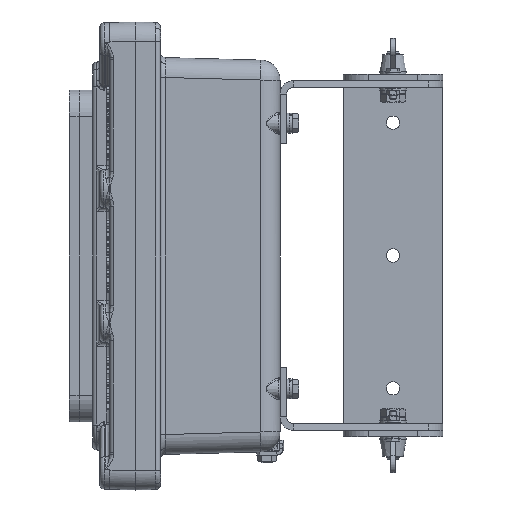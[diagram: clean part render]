
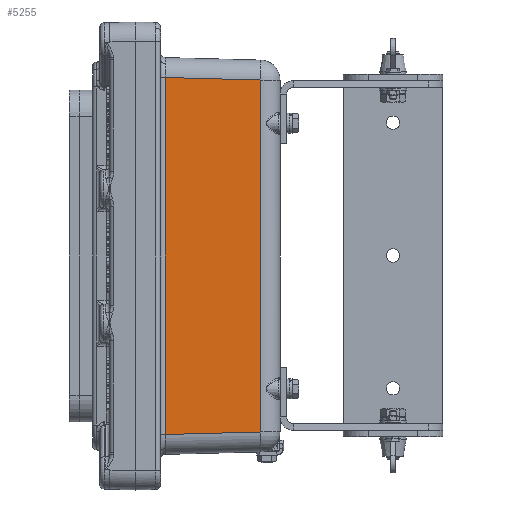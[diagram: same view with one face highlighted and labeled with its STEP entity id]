
A CAD part, left-side view. The second image highlights one B-rep face of the part: STEP entity #5255.
In plain terms, the highlighted planar face has unit normal (-1, -0.026, 0).
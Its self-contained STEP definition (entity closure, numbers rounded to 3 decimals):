
#2461=CARTESIAN_POINT('',(-69.538,-17.921,-107.543));
#2462=VERTEX_POINT('',#2461);
#5218=CARTESIAN_POINT('',(-69.615,-15.,-119.615));
#5219=DIRECTION('',(-1.,-0.026,0.));
#5220=DIRECTION('',(0.0,0.0,1.0));
#5221=AXIS2_PLACEMENT_3D('',#5218,#5219,#5220);
#5222=PLANE('',#5221);
#5223=CARTESIAN_POINT('',(-68.036,-75.314,106.04));
#5224=VERTEX_POINT('',#5223);
#5225=CARTESIAN_POINT('',(-69.538,-17.921,107.543));
#5226=VERTEX_POINT('',#5225);
#5227=CARTESIAN_POINT('',(-68.036,-75.314,106.04));
#5228=DIRECTION('',(-0.026,0.999,0.026));
#5229=VECTOR('',#5228,57.432);
#5230=LINE('',#5227,#5229);
#5231=EDGE_CURVE('',#5224,#5226,#5230,.T.);
#5232=ORIENTED_EDGE('',*,*,#5231,.T.);
#5233=CARTESIAN_POINT('',(-69.538,-17.921,107.543));
#5234=DIRECTION('',(0.0,0.0,-1.0));
#5235=VECTOR('',#5234,215.085);
#5236=LINE('',#5233,#5235);
#5237=EDGE_CURVE('',#5226,#2462,#5236,.T.);
#5238=ORIENTED_EDGE('',*,*,#5237,.T.);
#5239=CARTESIAN_POINT('',(-68.036,-75.314,-106.04));
#5240=VERTEX_POINT('',#5239);
#5241=CARTESIAN_POINT('',(-69.538,-17.921,-107.543));
#5242=DIRECTION('',(0.026,-0.999,0.026));
#5243=VECTOR('',#5242,57.432);
#5244=LINE('',#5241,#5243);
#5245=EDGE_CURVE('',#2462,#5240,#5244,.T.);
#5246=ORIENTED_EDGE('',*,*,#5245,.T.);
#5247=CARTESIAN_POINT('',(-68.036,-75.314,-106.04));
#5248=DIRECTION('',(0.0,0.0,1.0));
#5249=VECTOR('',#5248,212.079);
#5250=LINE('',#5247,#5249);
#5251=EDGE_CURVE('',#5240,#5224,#5250,.T.);
#5252=ORIENTED_EDGE('',*,*,#5251,.T.);
#5253=EDGE_LOOP('',(#5232,#5238,#5246,#5252));
#5254=FACE_OUTER_BOUND('',#5253,.T.);
#5255=ADVANCED_FACE('',(#5254),#5222,.T.);
